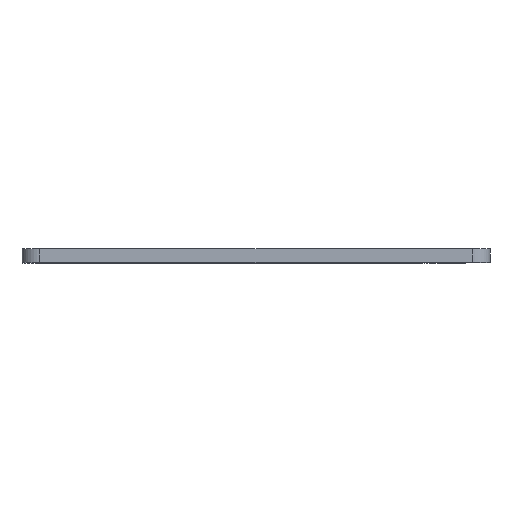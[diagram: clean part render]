
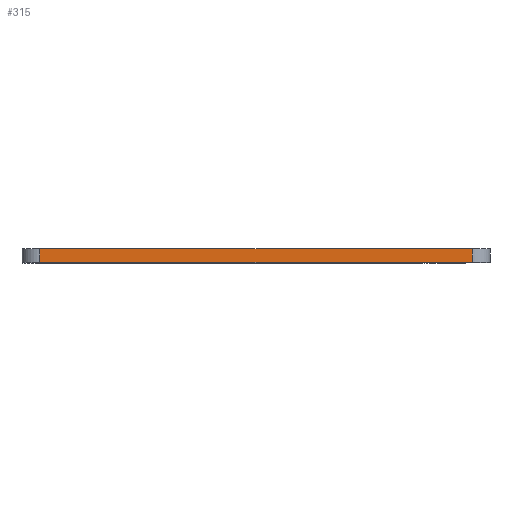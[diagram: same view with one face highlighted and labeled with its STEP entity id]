
A CAD part, top view. The second image highlights one B-rep face of the part: STEP entity #315.
In plain terms, the highlighted planar face has unit normal (0, 0, 1).
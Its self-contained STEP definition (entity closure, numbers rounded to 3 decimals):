
#12 = ORIENTED_EDGE ( 'NONE', *, *, #696, .T. ) ;
#36 = LINE ( 'NONE', #600, #82 ) ;
#53 = VECTOR ( 'NONE', #480, 1000. ) ;
#74 = LINE ( 'NONE', #484, #304 ) ;
#82 = VECTOR ( 'NONE', #490, 1000. ) ;
#84 = CARTESIAN_POINT ( 'NONE',  ( 146.372, 0., 17.194 ) ) ;
#90 = FACE_OUTER_BOUND ( 'NONE', #561, .T. ) ;
#116 = VERTEX_POINT ( 'NONE', #396 ) ;
#155 = PLANE ( 'NONE',  #526 ) ;
#164 = EDGE_CURVE ( 'NONE', #707, #506, #74, .T. ) ;
#174 = EDGE_CURVE ( 'NONE', #707, #335, #430, .T. ) ;
#207 = CARTESIAN_POINT ( 'NONE',  ( 146.372, 0., 17.194 ) ) ;
#241 = DIRECTION ( 'NONE',  ( 1., 0., 0. ) ) ;
#254 = LINE ( 'NONE', #524, #285 ) ;
#285 = VECTOR ( 'NONE', #241, 1000. ) ;
#304 = VECTOR ( 'NONE', #428, 1000. ) ;
#315 = ADVANCED_FACE ( 'NONE', ( #90 ), #155, .T. ) ;
#316 = CARTESIAN_POINT ( 'NONE',  ( 146.372, 0., 17.194 ) ) ;
#335 = VERTEX_POINT ( 'NONE', #718 ) ;
#372 = CARTESIAN_POINT ( 'NONE',  ( 146.372, 2.5, 17.194 ) ) ;
#396 = CARTESIAN_POINT ( 'NONE',  ( 225.759, 2.5, 17.194 ) ) ;
#428 = DIRECTION ( 'NONE',  ( 0., 1., 0. ) ) ;
#430 = LINE ( 'NONE', #84, #53 ) ;
#480 = DIRECTION ( 'NONE',  ( 1., 0., 0. ) ) ;
#484 = CARTESIAN_POINT ( 'NONE',  ( 146.372, 0., 17.194 ) ) ;
#490 = DIRECTION ( 'NONE',  ( 0., 1., 0. ) ) ;
#506 = VERTEX_POINT ( 'NONE', #372 ) ;
#524 = CARTESIAN_POINT ( 'NONE',  ( 146.372, 2.5, 17.194 ) ) ;
#526 = AXIS2_PLACEMENT_3D ( 'NONE', #316, #611, #667 ) ;
#551 = ORIENTED_EDGE ( 'NONE', *, *, #164, .F. ) ;
#561 = EDGE_LOOP ( 'NONE', ( #732, #551, #682, #12 ) ) ;
#596 = EDGE_CURVE ( 'NONE', #506, #116, #254, .T. ) ;
#600 = CARTESIAN_POINT ( 'NONE',  ( 225.759, 0., 17.194 ) ) ;
#611 = DIRECTION ( 'NONE',  ( 0., 0., 1. ) ) ;
#667 = DIRECTION ( 'NONE',  ( 1., 0., 0. ) ) ;
#682 = ORIENTED_EDGE ( 'NONE', *, *, #174, .T. ) ;
#696 = EDGE_CURVE ( 'NONE', #335, #116, #36, .T. ) ;
#707 = VERTEX_POINT ( 'NONE', #207 ) ;
#718 = CARTESIAN_POINT ( 'NONE',  ( 225.759, 0., 17.194 ) ) ;
#732 = ORIENTED_EDGE ( 'NONE', *, *, #596, .F. ) ;
